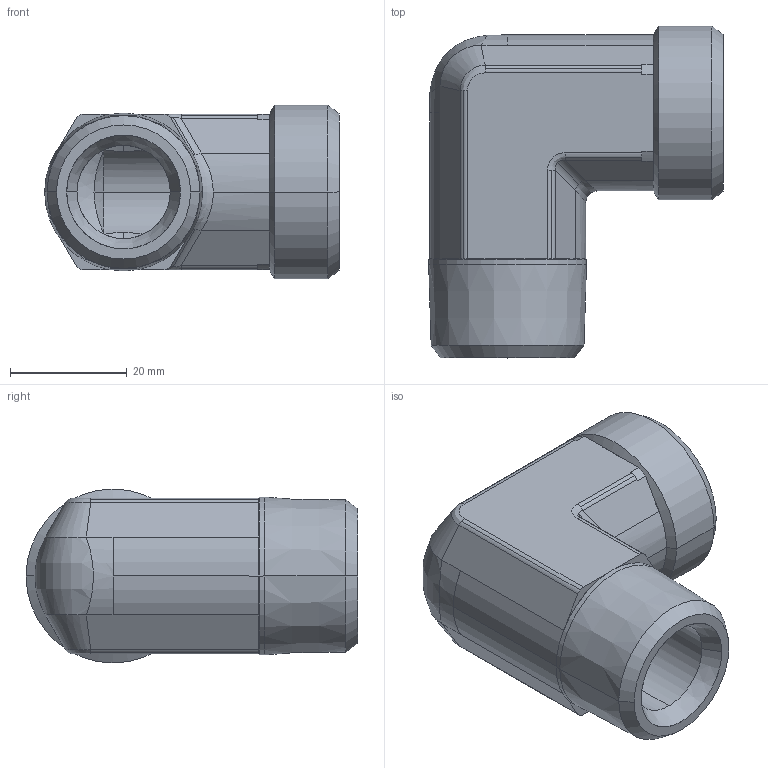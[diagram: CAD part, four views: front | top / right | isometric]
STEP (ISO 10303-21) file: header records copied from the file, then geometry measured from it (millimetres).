
FILE_DESCRIPTION((''),'2;1');
FILE_NAME('102020.stp','2007-10-30T16:27:28',(''),(''),'AutoCAD STEP 2000i','AutoCAD 2000i',', , ');
FILE_SCHEMA(('CONFIG_CONTROL_DESIGN'));
Length unit declared in the file: millimetre
Products named in the file (2): 102020.0; 3090#0
Assembly tree (1 placements, depth 2):
  102020.0
    3090#0
Bounding box: 50.53 x 56.91 x 29.82 mm (x, y, z)
Volume: 29748.6 mm3; surface area: 11649.2 mm2
Topology: 1 solids, 1 shells, 114 faces, 266 edges, 155 vertices
Faces by surface type: cylinder 48, plane 29, cone 23, bspline 14
Entity records: 4217 total; most frequent: CARTESIAN_POINT 1498, DIRECTION 586, ORIENTED_EDGE 532, EDGE_CURVE 266, AXIS2_PLACEMENT_3D 239, VERTEX_POINT 155, CIRCLE 119, EDGE_LOOP 117
